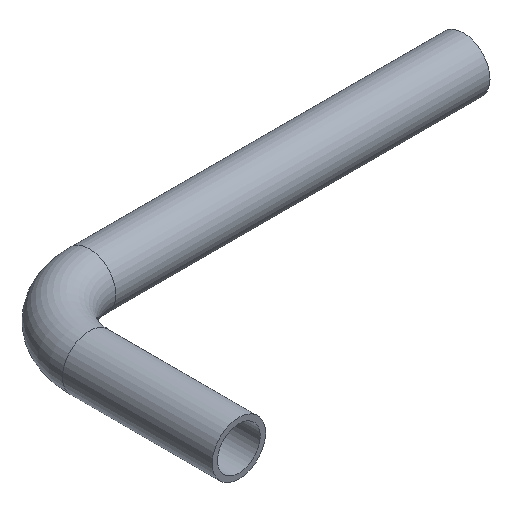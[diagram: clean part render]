
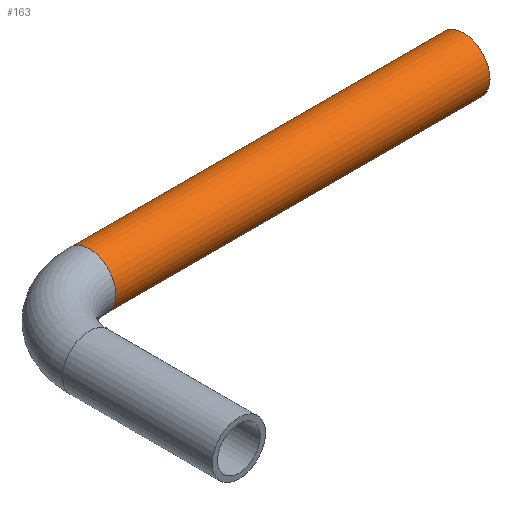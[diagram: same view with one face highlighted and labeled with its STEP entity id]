
A CAD part, isometric view. The second image highlights one B-rep face of the part: STEP entity #163.
In plain terms, the highlighted cylindrical face has radius 7.5 mm (diameter 15 mm), a full revolution.
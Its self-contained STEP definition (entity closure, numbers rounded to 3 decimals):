
#136=CARTESIAN_POINT('',(0.,20.,0.0));
#137=DIRECTION('',(1.0,0.,0.0));
#138=DIRECTION('',(0.0,-1.0,0.0));
#139=AXIS2_PLACEMENT_3D('',#136,#137,#138);
#140=CYLINDRICAL_SURFACE('',#139,7.5);
#141=CARTESIAN_POINT('',(105.0,27.5,0.));
#142=VERTEX_POINT('',#141);
#143=CARTESIAN_POINT('',(105.0,20.,0.0));
#144=DIRECTION('',(-1.0,0.0,0.0));
#145=DIRECTION('',(0.0,-1.0,0.0));
#146=AXIS2_PLACEMENT_3D('',#143,#144,#145);
#147=CIRCLE('',#146,7.5);
#148=EDGE_CURVE('',#142,#142,#147,.T.);
#149=ORIENTED_EDGE('',*,*,#148,.T.);
#150=EDGE_LOOP('',(#149));
#151=FACE_OUTER_BOUND('',#150,.T.);
#152=CARTESIAN_POINT('',(0.,27.5,0.));
#153=VERTEX_POINT('',#152);
#154=CARTESIAN_POINT('',(0.,20.,0.0));
#155=DIRECTION('',(-1.0,0.0,0.0));
#156=DIRECTION('',(0.0,-1.0,0.0));
#157=AXIS2_PLACEMENT_3D('',#154,#155,#156);
#158=CIRCLE('',#157,7.5);
#159=EDGE_CURVE('',#153,#153,#158,.T.);
#160=ORIENTED_EDGE('',*,*,#159,.F.);
#161=EDGE_LOOP('',(#160));
#162=FACE_BOUND('',#161,.T.);
#163=ADVANCED_FACE('',(#151,#162),#140,.T.);
